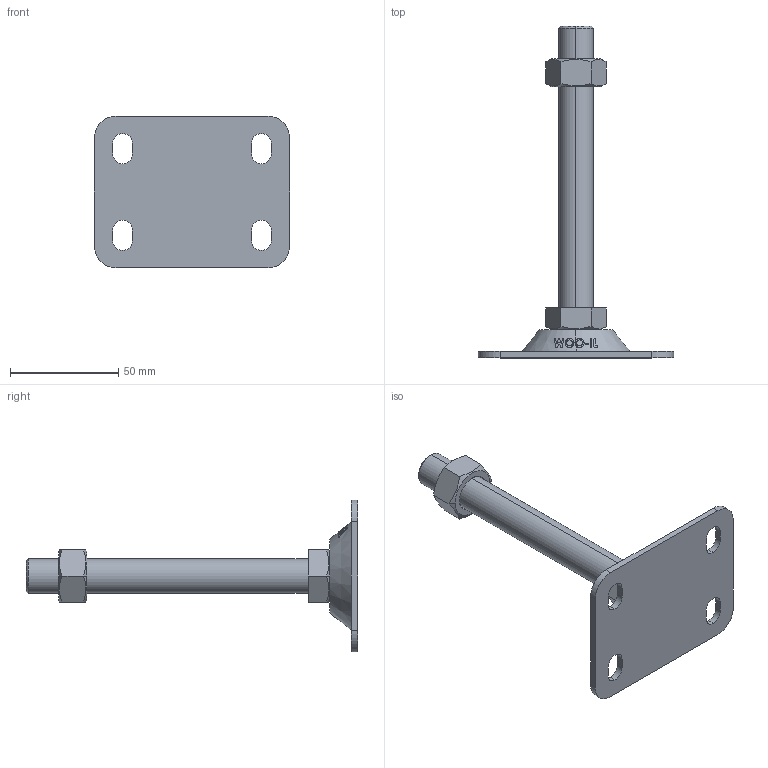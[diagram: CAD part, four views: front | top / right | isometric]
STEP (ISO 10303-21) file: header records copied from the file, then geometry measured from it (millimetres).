
FILE_DESCRIPTION (( 'STEP AP214' ), '1' );
FILE_NAME ('FABL7090-M16-130.step', '2021-03-28T23:51:36', ( '' ), ( '' ), 'SwSTEP 2.0', 'SolidWorks 2019', '' );
FILE_SCHEMA (( 'AUTOMOTIVE_DESIGN' ));
Length unit declared in the file: millimetre
Products named in the file (2): FABL7090-M16-130
Bounding box: 90 x 153 x 70 mm (x, y, z)
Volume: 66165.6 mm3; surface area: 23334.6 mm2
Topology: 2 solids, 2 shells, 146 faces, 384 edges, 252 vertices
Faces by surface type: plane 58, cylinder 48, cone 22, bspline 18
Entity records: 6084 total; most frequent: CARTESIAN_POINT 2656, ORIENTED_EDGE 768, DIRECTION 582, EDGE_CURVE 384, VERTEX_POINT 252, AXIS2_PLACEMENT_3D 210, EDGE_LOOP 166, VECTOR 162
